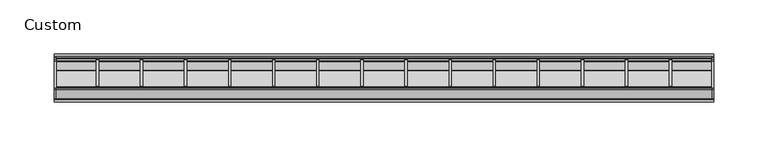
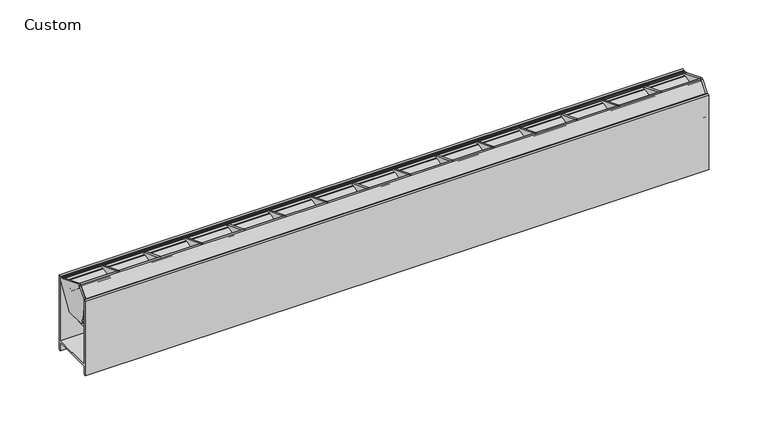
"""IFC4 building model written with IfcOpenShell, lengths in millimetres: light fixture geometry, Lighting-Pendant-Axis-Sculpt-Linear-Wall_Wash : Custom."""

from ifc_helpers import new_model, si_unit, point, frame, frame_2d, origin, place, context, project, spatial, polyline, circle_curve, trimmed, segment, composite_curve, outline, extrude, source, transform, mapped, element, save


def custom_3c175da8(model_context):
    return source(origin(), model_context, "Body", "SweptSolid", [
        extrude(outline(polyline([(5.8363547, 682.2146029), (-9.8892949, 695.4099896), (-7.9278061, 695.4099896), (16.744908, 685.5665748), (18.4106204, 685.5665748), (18.4106204, 684.2965748), (14.2078807, 684.2965748), (5.8363547, 682.2146029)])), frame((223.0413077, 0.0, 0.0), z_axis=(1.0, 0.0, 0.0), x_axis=(0.0, 1.0, 0.0)), (0.0, 0.0, 1.0), 2.032),
        extrude(outline(polyline([(5.8363547, 682.2146029), (-9.8892949, 695.4099896), (-7.9278061, 695.4099896), (16.744908, 685.5665748), (18.4106204, 685.5665748), (18.4106204, 684.2965748), (14.2078807, 684.2965748), (5.8363547, 682.2146029)])), frame((182.3036154, 0.0, 0.0), z_axis=(1.0, 0.0, 0.0), x_axis=(0.0, 1.0, 0.0)), (0.0, 0.0, 1.0), 2.032),
        extrude(outline(polyline([(5.8363547, 682.2146029), (-9.8892949, 695.4099896), (-7.9278061, 695.4099896), (16.744908, 685.5665748), (18.4106204, 685.5665748), (18.4106204, 684.2965748), (14.2078807, 684.2965748), (5.8363547, 682.2146029)])), frame((141.5659231, 0.0, 0.0), z_axis=(1.0, 0.0, 0.0), x_axis=(0.0, 1.0, 0.0)), (0.0, 0.0, 1.0), 2.032),
        extrude(outline(polyline([(5.8363547, 682.2146029), (-9.8892949, 695.4099896), (-7.9278061, 695.4099896), (16.744908, 685.5665748), (18.4106204, 685.5665748), (18.4106204, 684.2965748), (14.2078807, 684.2965748), (5.8363547, 682.2146029)])), frame((100.8282308, 0.0, 0.0), z_axis=(1.0, 0.0, 0.0), x_axis=(0.0, 1.0, 0.0)), (0.0, 0.0, 1.0), 2.032),
        extrude(outline(polyline([(5.8363547, 682.2146029), (-9.8892949, 695.4099896), (-7.9278061, 695.4099896), (16.744908, 685.5665748), (18.4106204, 685.5665748), (18.4106204, 684.2965748), (14.2078807, 684.2965748), (5.8363547, 682.2146029)])), frame((60.0905385, 0.0, 0.0), z_axis=(1.0, 0.0, 0.0), x_axis=(0.0, 1.0, 0.0)), (0.0, 0.0, 1.0), 2.032),
        extrude(outline(polyline([(5.8363547, 682.2146029), (-9.8892949, 695.4099896), (-7.9278061, 695.4099896), (16.744908, 685.5665748), (18.4106204, 685.5665748), (18.4106204, 684.2965748), (14.2078807, 684.2965748), (5.8363547, 682.2146029)])), frame((19.3528462, 0.0, 0.0), z_axis=(1.0, 0.0, 0.0), x_axis=(0.0, 1.0, 0.0)), (0.0, 0.0, 1.0), 2.032),
        extrude(outline(polyline([(5.8363547, 682.2146029), (-9.8892949, 695.4099896), (-7.9278061, 695.4099896), (16.744908, 685.5665748), (18.4106204, 685.5665748), (18.4106204, 684.2965748), (14.2078807, 684.2965748), (5.8363547, 682.2146029)])), frame((-21.3848462, 0.0, 0.0), z_axis=(1.0, 0.0, 0.0), x_axis=(0.0, 1.0, 0.0)), (0.0, 0.0, 1.0), 2.032),
        extrude(outline(polyline([(5.8363547, 682.2146029), (-9.8892949, 695.4099896), (-7.9278061, 695.4099896), (16.744908, 685.5665748), (18.4106204, 685.5665748), (18.4106204, 684.2965748), (14.2078807, 684.2965748), (5.8363547, 682.2146029)])), frame((-62.1225385, 0.0, 0.0), z_axis=(1.0, 0.0, 0.0), x_axis=(0.0, 1.0, 0.0)), (0.0, 0.0, 1.0), 2.032),
        extrude(outline(polyline([(5.8363547, 682.2146029), (-9.8892949, 695.4099896), (-7.9278061, 695.4099896), (16.744908, 685.5665748), (18.4106204, 685.5665748), (18.4106204, 684.2965748), (14.2078807, 684.2965748), (5.8363547, 682.2146029)])), frame((-102.8602308, 0.0, 0.0), z_axis=(1.0, 0.0, 0.0), x_axis=(0.0, 1.0, 0.0)), (0.0, 0.0, 1.0), 2.032),
        extrude(outline(polyline([(5.8363547, 682.2146029), (-9.8892949, 695.4099896), (-7.9278061, 695.4099896), (16.744908, 685.5665748), (18.4106204, 685.5665748), (18.4106204, 684.2965748), (14.2078807, 684.2965748), (5.8363547, 682.2146029)])), frame((-143.5979231, 0.0, 0.0), z_axis=(1.0, 0.0, 0.0), x_axis=(0.0, 1.0, 0.0)), (0.0, 0.0, 1.0), 2.032),
        extrude(outline(polyline([(5.8363547, 682.2146029), (-9.8892949, 695.4099896), (-7.9278061, 695.4099896), (16.744908, 685.5665748), (18.4106204, 685.5665748), (18.4106204, 684.2965748), (14.2078807, 684.2965748), (5.8363547, 682.2146029)])), frame((-184.3356154, 0.0, 0.0), z_axis=(1.0, 0.0, 0.0), x_axis=(0.0, 1.0, 0.0)), (0.0, 0.0, 1.0), 2.032),
        extrude(outline(polyline([(5.8363547, 682.2146029), (-9.8892949, 695.4099896), (-7.9278061, 695.4099896), (16.744908, 685.5665748), (18.4106204, 685.5665748), (18.4106204, 684.2965748), (14.2078807, 684.2965748), (5.8363547, 682.2146029)])), frame((-225.0733077, 0.0, 0.0), z_axis=(1.0, 0.0, 0.0), x_axis=(0.0, 1.0, 0.0)), (0.0, 0.0, 1.0), 2.032),
        extrude(outline(polyline([(5.8363547, 682.2146029), (-9.8892949, 695.4099896), (-7.9278061, 695.4099896), (16.744908, 685.5665748), (18.4106204, 685.5665748), (18.4106204, 684.2965748), (14.2078807, 684.2965748), (5.8363547, 682.2146029)])), frame((263.779, 0.0, 0.0), z_axis=(1.0, 0.0, 0.0), x_axis=(0.0, 1.0, 0.0)), (0.0, 0.0, 1.0), 2.032),
        extrude(outline(polyline([(5.8363547, 682.2146029), (-9.8892949, 695.4099896), (-7.9278061, 695.4099896), (16.744908, 685.5665748), (18.4106204, 685.5665748), (18.4106204, 684.2965748), (14.2078807, 684.2965748), (5.8363547, 682.2146029)])), frame((-265.811, 0.0, 0.0), z_axis=(1.0, 0.0, 0.0), x_axis=(0.0, 1.0, 0.0)), (0.0, 0.0, 1.0), 2.032),
        extrude(outline(polyline([(-10.7115769, 694.4408289), (-9.8952367, 695.4137053), (6.8009754, 681.4039199), (6.0010352, 680.4172822), (4.7830245, 681.4393145), (3.9474006, 680.4434568), (-10.4695558, 692.5407196), (-9.6339319, 693.5365774), (-10.7115769, 694.4408289)])), frame((-302.895, 0.0, 0.0), z_axis=(1.0, 0.0, 0.0), x_axis=(0.0, 1.0, 0.0)), (0.0, 0.0, 1.0), 605.79),
        extrude(outline(composite_curve([segment(polyline([(18.6311536, 682.4592555), (8.2506204, 680.6288874), (5.9475652, 677.9305234), (4.9578706, 678.810814), (-1.3174135, 671.7556271), (0.6234508, 669.8147627), (0.6234508, 665.5434954), (2.5330565, 665.5434954), (2.5330565, 656.6535), (-17.4105454, 656.6535), (-17.4105454, 678.2434954), (-19.6965454, 678.2434954), (-19.6965454, 685.8933974)]), True, "CONTINUOUS"), segment(trimmed(circle_curve(frame_2d((-18.4265454, 685.8933974)), 1.27), [point((-19.6965454, 685.8933974))], [point((-19.3994218, 686.7097377))], False, "CARTESIAN"), True, "CONTINUOUS"), segment(polyline([(-19.3994218, 686.7097377), (-11.343319, 696.3106272)]), True, "CONTINUOUS"), segment(trimmed(circle_curve(frame_2d((-10.3704425, 695.4942869)), 1.27), [point((-11.343319, 696.3106272))], [point((-9.8337174, 696.6452978))], False, "CARTESIAN"), True, "CONTINUOUS"), segment(polyline([(-9.8337174, 696.6452978), (-8.7171308, 696.1246249), (-8.2841416, 695.4316974), (-9.8801395, 695.4316974), (-11.1235766, 693.9498269), (-10.5155288, 693.4396142), (-17.1905146, 685.4846759), (-15.6582538, 684.1989565), (-18.4270034, 680.8992892), (-18.4270034, 679.5134954), (-16.1405454, 679.5134954), (-16.1405454, 665.5434954), (-9.7905492, 665.5434954), (-9.7905492, 671.6911987), (-8.5722525, 672.9094954), (-2.5359723, 672.9094954), (4.6118225, 680.7462523), (5.7672074, 679.7767693), (6.9955507, 681.2406519), (6.3875029, 681.7508645), (6.7713711, 682.4433809), (14.6006204, 684.2953048), (15.5485613, 684.0413048), (18.5693704, 684.0413048), (18.5693704, 685.5653048), (17.7756204, 685.5653048), (17.7756204, 686.4543048), (18.5693704, 686.4543048)]), True, "CONTINUOUS"), segment(trimmed(circle_curve(frame_2d((18.3992812, 685.1843048)), 1.2813393), [point((18.5693704, 686.4543048))], [point((19.6806204, 685.1843048))], False, "CARTESIAN"), True, "CONTINUOUS"), segment(polyline([(19.6806204, 685.1843048), (19.6806204, 683.7099613)]), True, "CONTINUOUS"), segment(trimmed(circle_curve(frame_2d((18.4106204, 683.7099613)), 1.27), [point((19.6806204, 683.7099613))], [point((18.6311536, 682.4592555))], False, "CARTESIAN"), True, "CONTINUOUS")], self_intersect=False)), frame((-302.895, 0.0, 0.0), z_axis=(1.0, 0.0, 0.0), x_axis=(0.0, 1.0, 0.0)), (0.0, 0.0, 1.0), 605.79),
        extrude(outline(composite_curve([segment(polyline([(19.3812922, 682.8910008), (6.1327574, 660.7371963)]), True, "CONTINUOUS"), segment(trimmed(circle_curve(frame_2d((3.4109097, 662.36493)), 3.1714306), [point((6.1327574, 660.7371963))], [point((3.4088865, 659.1935))], False, "CARTESIAN"), True, "CONTINUOUS"), segment(polyline([(3.4088865, 659.1935), (-14.2355481, 659.1935)]), True, "CONTINUOUS"), segment(trimmed(circle_curve(frame_2d((-14.2355481, 662.3685)), 3.175), [point((-14.2355481, 659.1935))], [point((-17.4105481, 662.3685))], False, "CARTESIAN"), True, "CONTINUOUS"), segment(polyline([(-17.4105481, 662.3685), (-17.4105481, 664.1383821)]), True, "CONTINUOUS"), segment(trimmed(circle_curve(frame_2d((-23.7605481, 664.1383821)), 6.35), [point((-17.4105481, 664.1383821))], [point((-17.4938945, 665.1638345))], True, "CARTESIAN"), True, "CONTINUOUS"), segment(polyline([(-17.4938945, 665.1638345), (-19.6766789, 678.5030724), (-19.6965454, 685.8933974)]), True, "CONTINUOUS"), segment(trimmed(circle_curve(frame_2d((-18.4265454, 685.8933974)), 1.27), [point((-19.6965454, 685.8933974))], [point((-19.3994218, 686.7097377))], False, "CARTESIAN"), True, "CONTINUOUS"), segment(polyline([(-19.3994218, 686.7097377), (-11.3433494, 696.3105909)]), True, "CONTINUOUS"), segment(trimmed(circle_curve(frame_2d((-10.331786, 695.5368159)), 1.273573), [point((-11.3433494, 696.3105909))], [point((-9.8609876, 696.7201743))], False, "CARTESIAN"), True, "CONTINUOUS"), segment(polyline([(-9.8609876, 696.7201743), (15.3040698, 686.6803344)]), True, "CONTINUOUS"), segment(trimmed(circle_curve(frame_2d((16.4805897, 689.6293048)), 3.175), [point((15.3040698, 686.6803344))], [point((16.4805897, 686.4543048))], True, "CARTESIAN"), True, "CONTINUOUS"), segment(polyline([(16.4805897, 686.4543048), (18.4106204, 686.4543048)]), True, "CONTINUOUS"), segment(trimmed(circle_curve(frame_2d((18.4106204, 685.1843048)), 1.27), [point((18.4106204, 686.4543048))], [point((19.6806204, 685.1843048))], False, "CARTESIAN"), True, "CONTINUOUS"), segment(polyline([(19.6806204, 685.1843048), (19.6806204, 683.7099613)]), True, "CONTINUOUS"), segment(trimmed(circle_curve(frame_2d((18.4106204, 683.7099613)), 1.27), [point((19.6806204, 683.7099613))], [point((19.3812922, 682.8910008))], False, "CARTESIAN"), True, "CONTINUOUS")], self_intersect=False)), frame((302.895, 0.0, 0.0), z_axis=(1.0, 0.0, 0.0), x_axis=(0.0, 1.0, 0.0)), (0.0, 0.0, 1.0), 1.905),
        extrude(outline(composite_curve([segment(polyline([(19.3812922, 682.8910008), (6.1327574, 660.7371963)]), True, "CONTINUOUS"), segment(trimmed(circle_curve(frame_2d((3.4109097, 662.36493)), 3.1714306), [point((6.1327574, 660.7371963))], [point((3.4088865, 659.1935))], False, "CARTESIAN"), True, "CONTINUOUS"), segment(polyline([(3.4088865, 659.1935), (-14.2355481, 659.1935)]), True, "CONTINUOUS"), segment(trimmed(circle_curve(frame_2d((-14.2355481, 662.3685)), 3.175), [point((-14.2355481, 659.1935))], [point((-17.4105481, 662.3685))], False, "CARTESIAN"), True, "CONTINUOUS"), segment(polyline([(-17.4105481, 662.3685), (-17.4105481, 664.1383821)]), True, "CONTINUOUS"), segment(trimmed(circle_curve(frame_2d((-23.7605481, 664.1383821)), 6.35), [point((-17.4105481, 664.1383821))], [point((-17.4938945, 665.1638345))], True, "CARTESIAN"), True, "CONTINUOUS"), segment(polyline([(-17.4938945, 665.1638345), (-19.6766789, 678.5030724), (-19.6965454, 685.8933974)]), True, "CONTINUOUS"), segment(trimmed(circle_curve(frame_2d((-18.4265454, 685.8933974)), 1.27), [point((-19.6965454, 685.8933974))], [point((-19.3994218, 686.7097377))], False, "CARTESIAN"), True, "CONTINUOUS"), segment(polyline([(-19.3994218, 686.7097377), (-11.3433494, 696.3105909)]), True, "CONTINUOUS"), segment(trimmed(circle_curve(frame_2d((-10.331786, 695.5368159)), 1.273573), [point((-11.3433494, 696.3105909))], [point((-9.8609876, 696.7201743))], False, "CARTESIAN"), True, "CONTINUOUS"), segment(polyline([(-9.8609876, 696.7201743), (15.3040698, 686.6803344)]), True, "CONTINUOUS"), segment(trimmed(circle_curve(frame_2d((16.4805897, 689.6293048)), 3.175), [point((15.3040698, 686.6803344))], [point((16.4805897, 686.4543048))], True, "CARTESIAN"), True, "CONTINUOUS"), segment(polyline([(16.4805897, 686.4543048), (18.4106204, 686.4543048)]), True, "CONTINUOUS"), segment(trimmed(circle_curve(frame_2d((18.4106204, 685.1843048)), 1.27), [point((18.4106204, 686.4543048))], [point((19.6806204, 685.1843048))], False, "CARTESIAN"), True, "CONTINUOUS"), segment(polyline([(19.6806204, 685.1843048), (19.6806204, 683.7099613)]), True, "CONTINUOUS"), segment(trimmed(circle_curve(frame_2d((18.4106204, 683.7099613)), 1.27), [point((19.6806204, 683.7099613))], [point((19.3812922, 682.8910008))], False, "CARTESIAN"), True, "CONTINUOUS")], self_intersect=False)), frame((-304.8, 0.0, 0.0), z_axis=(1.0, 0.0, 0.0), x_axis=(0.0, 1.0, 0.0)), (0.0, 0.0, 1.0), 1.905),
        extrude(outline(polyline([(20.193, 620.0775), (20.193, 686.59375), (22.225, 686.59375), (22.225, 609.6), (20.193, 609.6), (20.193, 618.0455), (-20.193, 618.0455), (-20.193, 609.6), (-22.225, 609.6), (-22.225, 686.59375), (-20.193, 686.59375), (-20.193, 620.0775), (20.193, 620.0775)])), frame((-304.8, 0.0, 0.0), z_axis=(1.0, 0.0, 0.0), x_axis=(0.0, 1.0, 0.0)), (0.0, 0.0, 1.0), 609.6),
    ])


if __name__ == "__main__":
    model = new_model("IFC4")
    model_context = context("Model", 3, world=origin())
    ifc_project = project(units=[si_unit("LENGTHUNIT", "METRE", prefix="MILLI")], contexts=[model_context])
    site = spatial("IfcSite", under=ifc_project)
    building = spatial("IfcBuilding", under=site)
    placement = place(None, origin())
    custom_shape = custom_3c175da8(model_context)
    element("IfcLightFixture", 1, ObjectType="Lighting-Pendant-Axis-Sculpt-Linear-Wall_Wash : Custom", at=placement, inside=building, context=model_context, shape_type="MappedRepresentation", body=[
        mapped(custom_shape, transform((0.0, 0.0, 0.0), x_axis=(1.0, 0.0, 0.0), y_axis=(0.0, 1.0, 0.0), z_axis=(0.0, 0.0, 1.0))),
    ])
    save(model, "model.ifc")
